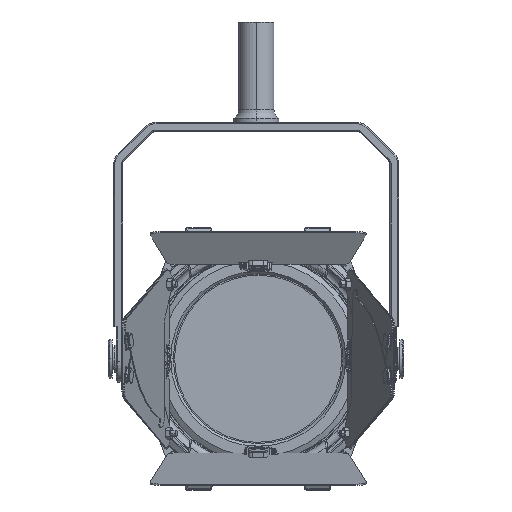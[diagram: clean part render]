
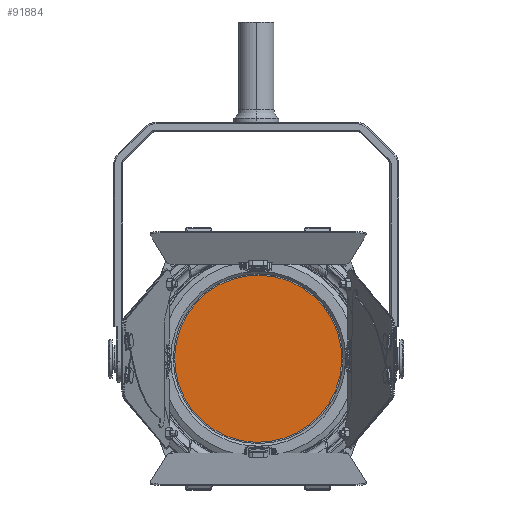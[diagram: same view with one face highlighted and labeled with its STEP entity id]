
A CAD part, top view. The second image highlights one B-rep face of the part: STEP entity #91884.
In plain terms, the highlighted planar face has unit normal (0, 0, 1) as drawn and (0, 1, 0) by its records, which use the part's own axes.
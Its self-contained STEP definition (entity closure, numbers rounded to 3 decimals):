
#5610 = EDGE_CURVE ( 'NONE', #44841, #38799, #42037, .T. ) ;
#10879 = DIRECTION ( 'NONE',  ( 0., 0., 1. ) ) ;
#15970 = CIRCLE ( 'NONE', #82098, 65. ) ;
#18271 = CARTESIAN_POINT ( 'NONE',  ( 0., 4.75, 0. ) ) ;
#30005 = FACE_OUTER_BOUND ( 'NONE', #90996, .T. ) ;
#38799 = VERTEX_POINT ( 'NONE', #40280 ) ;
#40237 = DIRECTION ( 'NONE',  ( 0., 0., 1. ) ) ;
#40280 = CARTESIAN_POINT ( 'NONE',  ( 0., 4.75, -65. ) ) ;
#40571 = DIRECTION ( 'NONE',  ( 0., 1., 0. ) ) ;
#42037 = CIRCLE ( 'NONE', #42542, 65. ) ;
#42542 = AXIS2_PLACEMENT_3D ( 'NONE', #80566, #55783, #71844 ) ;
#42845 = PLANE ( 'NONE',  #51735 ) ;
#44841 = VERTEX_POINT ( 'NONE', #96832 ) ;
#51735 = AXIS2_PLACEMENT_3D ( 'NONE', #18271, #57649, #10879 ) ;
#55783 = DIRECTION ( 'NONE',  ( 0., 1., 0. ) ) ;
#57649 = DIRECTION ( 'NONE',  ( 0., 1., 0. ) ) ;
#71844 = DIRECTION ( 'NONE',  ( 0., 0., 1. ) ) ;
#74912 = ORIENTED_EDGE ( 'NONE', *, *, #103683, .T. ) ;
#80566 = CARTESIAN_POINT ( 'NONE',  ( 0., 4.75, 0. ) ) ;
#82098 = AXIS2_PLACEMENT_3D ( 'NONE', #95597, #40571, #40237 ) ;
#90996 = EDGE_LOOP ( 'NONE', ( #74912, #102489 ) ) ;
#91884 = ADVANCED_FACE ( 'NONE', ( #30005 ), #42845, .T. ) ;
#95597 = CARTESIAN_POINT ( 'NONE',  ( 0., 4.75, 0. ) ) ;
#96832 = CARTESIAN_POINT ( 'NONE',  ( 0., 4.75, 65. ) ) ;
#102489 = ORIENTED_EDGE ( 'NONE', *, *, #5610, .T. ) ;
#103683 = EDGE_CURVE ( 'NONE', #38799, #44841, #15970, .T. ) ;
